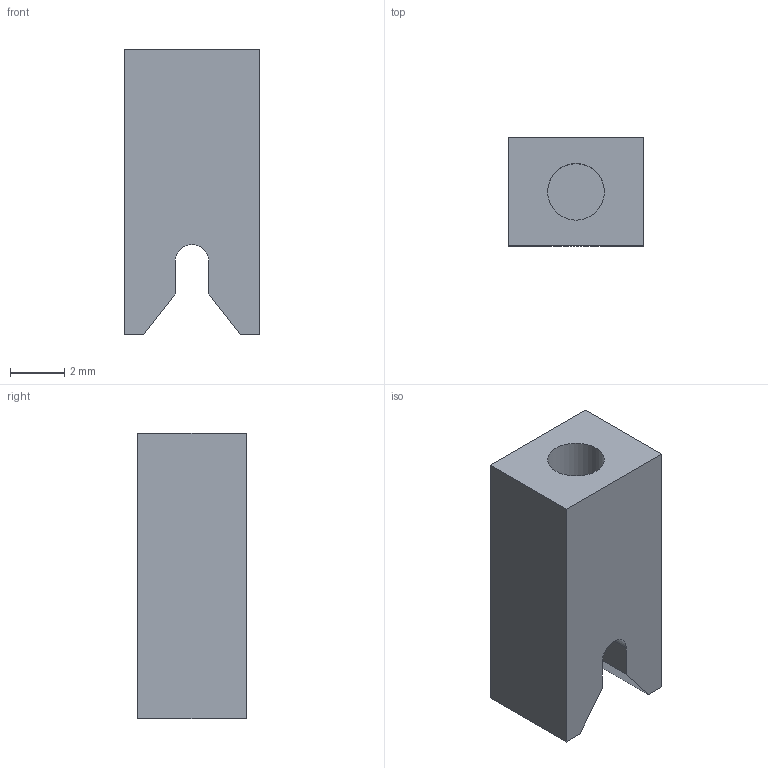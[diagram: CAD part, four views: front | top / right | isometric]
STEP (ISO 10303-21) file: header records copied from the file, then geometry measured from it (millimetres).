
FILE_DESCRIPTION(('SkyG Speed 90B - revision C6B-23 - 2026-10-17','AHL-aileron-horn-left'),'2;1');
FILE_NAME('AHL-aileron-horn-left_C6B-23','2026-10-17T13:26:40',('Author'),( 'Open CASCADE'),'Open CASCADE STEP processor 7.9','Open CASCADE 7.9' ,'Unknown');
FILE_SCHEMA(('AUTOMOTIVE_DESIGN { 1 0 10303 214 1 1 1 1 }'));
Length unit declared in the file: millimetre
Products named in the file (1): AHL-aileron-horn-left C6B-23
Bounding box: 5 x 4 x 10.55 mm (x, y, z)
Volume: 165.7 mm3; surface area: 279.3 mm2
Topology: 1 solids, 1 shells, 15 faces, 36 edges, 24 vertices
Faces by surface type: plane 12, cylinder 3
Full cylindrical faces by diameter (mm): 2.1 x1
Entity records: 932 total; most frequent: CARTESIAN_POINT 184, DIRECTION 140, LINE 96, VECTOR 96, ORIENTED_EDGE 72, PCURVE 72, DEFINITIONAL_REPRESENTATION 72, EDGE_CURVE 36
